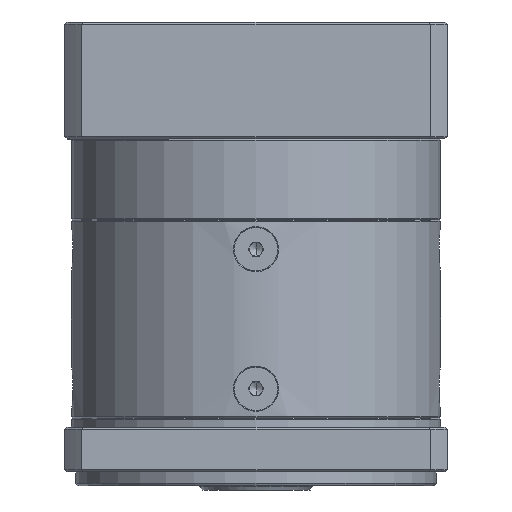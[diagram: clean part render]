
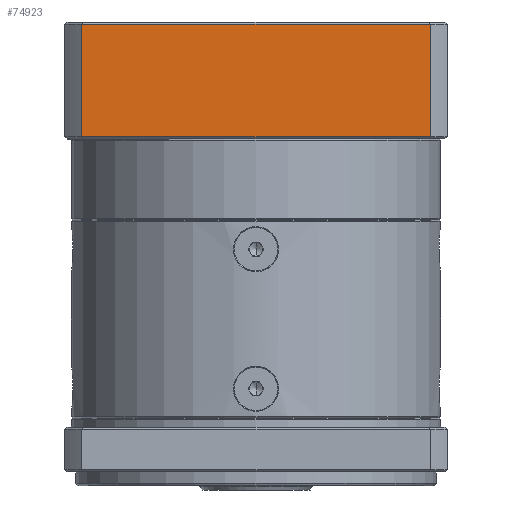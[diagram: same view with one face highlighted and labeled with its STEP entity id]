
A CAD part, front view. The second image highlights one B-rep face of the part: STEP entity #74923.
In plain terms, the highlighted planar face has unit normal (0, -1, 0).
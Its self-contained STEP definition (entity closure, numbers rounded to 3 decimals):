
#1587 = ORIENTED_EDGE ( 'NONE', *, *, #29821, .F. ) ;
#5385 = VECTOR ( 'NONE', #39311, 1000. ) ;
#6075 = VERTEX_POINT ( 'NONE', #57665 ) ;
#7295 = LINE ( 'NONE', #24224, #78088 ) ;
#8344 = CARTESIAN_POINT ( 'NONE',  ( -30.665, -10.575, 29.772 ) ) ;
#11904 = DIRECTION ( 'NONE',  ( -1., 0., 0. ) ) ;
#12673 = ORIENTED_EDGE ( 'NONE', *, *, #120051, .F. ) ;
#24224 = CARTESIAN_POINT ( 'NONE',  ( -108.125, -10.575, 29.772 ) ) ;
#24674 = DIRECTION ( 'NONE',  ( 0., 0., 1. ) ) ;
#25907 = LINE ( 'NONE', #115670, #119457 ) ;
#26103 = CARTESIAN_POINT ( 'NONE',  ( -108.125, -10.575, 29.272 ) ) ;
#27661 = DIRECTION ( 'NONE',  ( 1., 0., 0. ) ) ;
#29247 = ORIENTED_EDGE ( 'NONE', *, *, #48546, .T. ) ;
#29483 = CARTESIAN_POINT ( 'NONE',  ( -30.665, -10.575, 29.272 ) ) ;
#29821 = EDGE_CURVE ( 'NONE', #44713, #46791, #51533, .T. ) ;
#32762 = CARTESIAN_POINT ( 'NONE',  ( -30.665, -10.575, 4.272 ) ) ;
#39311 = DIRECTION ( 'NONE',  ( 0., 0., -1. ) ) ;
#40805 = CARTESIAN_POINT ( 'NONE',  ( -30.665, -10.575, 29.272 ) ) ;
#44713 = VERTEX_POINT ( 'NONE', #29483 ) ;
#46791 = VERTEX_POINT ( 'NONE', #32762 ) ;
#48546 = EDGE_CURVE ( 'NONE', #6075, #46791, #25907, .T. ) ;
#49776 = DIRECTION ( 'NONE',  ( 0., 1., 0. ) ) ;
#51010 = FACE_OUTER_BOUND ( 'NONE', #73725, .T. ) ;
#51442 = AXIS2_PLACEMENT_3D ( 'NONE', #99009, #49776, #11904 ) ;
#51533 = LINE ( 'NONE', #8344, #5385 ) ;
#57250 = VERTEX_POINT ( 'NONE', #26103 ) ;
#57665 = CARTESIAN_POINT ( 'NONE',  ( -108.125, -10.575, 4.272 ) ) ;
#73725 = EDGE_LOOP ( 'NONE', ( #29247, #1587, #12673, #104825 ) ) ;
#74923 = ADVANCED_FACE ( 'NONE', ( #51010 ), #117961, .F. ) ;
#78088 = VECTOR ( 'NONE', #24674, 1000. ) ;
#83116 = VECTOR ( 'NONE', #119292, 1000. ) ;
#89215 = LINE ( 'NONE', #40805, #83116 ) ;
#93888 = EDGE_CURVE ( 'NONE', #6075, #57250, #7295, .T. ) ;
#99009 = CARTESIAN_POINT ( 'NONE',  ( -30.665, -10.575, 29.772 ) ) ;
#104825 = ORIENTED_EDGE ( 'NONE', *, *, #93888, .F. ) ;
#115670 = CARTESIAN_POINT ( 'NONE',  ( -30.665, -10.575, 4.272 ) ) ;
#117961 = PLANE ( 'NONE',  #51442 ) ;
#119292 = DIRECTION ( 'NONE',  ( 1., 0., 0. ) ) ;
#119457 = VECTOR ( 'NONE', #27661, 1000. ) ;
#120051 = EDGE_CURVE ( 'NONE', #57250, #44713, #89215, .T. ) ;
